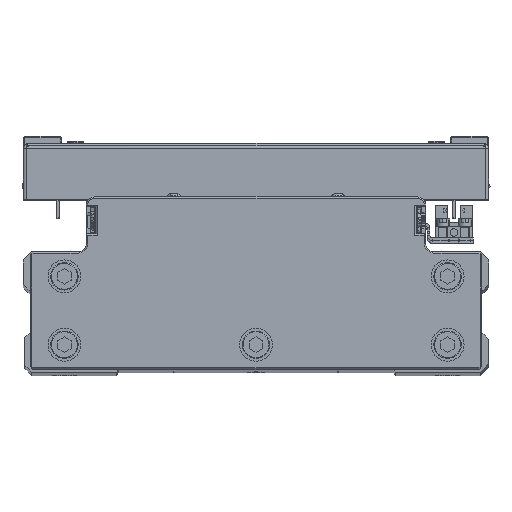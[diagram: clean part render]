
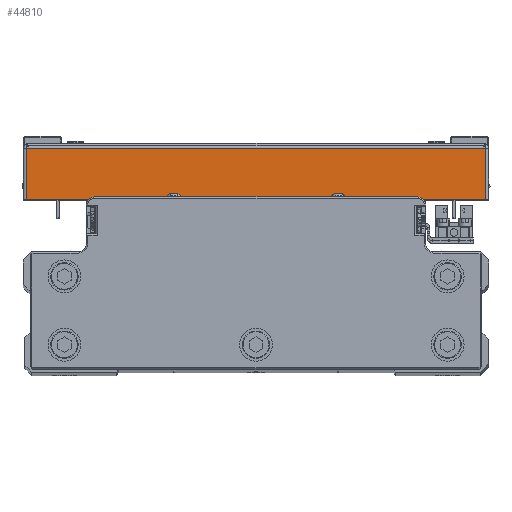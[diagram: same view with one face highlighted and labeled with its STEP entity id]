
A CAD part, top view. The second image highlights one B-rep face of the part: STEP entity #44810.
In plain terms, the highlighted planar face has unit normal (0, 0, 1) as drawn and (1, 0, 0) by its records, which use the part's own axes.
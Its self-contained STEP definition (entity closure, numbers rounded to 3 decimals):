
#1957 = CARTESIAN_POINT ( 'NONE',  ( 110., 19.5, -83.929 ) ) ;
#3543 = LINE ( 'NONE', #17402, #37561 ) ;
#6700 = CARTESIAN_POINT ( 'NONE',  ( 110., 0., 0. ) ) ;
#7973 = DIRECTION ( 'NONE',  ( 0., 0., 1. ) ) ;
#8188 = ORIENTED_EDGE ( 'NONE', *, *, #31437, .F. ) ;
#8842 = CARTESIAN_POINT ( 'NONE',  ( 110., 1., -83.929 ) ) ;
#8875 = DIRECTION ( 'NONE',  ( 0., 1., 0. ) ) ;
#13598 = VECTOR ( 'NONE', #8875, 1000. ) ;
#15167 = LINE ( 'NONE', #28981, #27736 ) ;
#17402 = CARTESIAN_POINT ( 'NONE',  ( 110., 19.5, 0. ) ) ;
#20532 = DIRECTION ( 'NONE',  ( -1., 0., 0. ) ) ;
#21279 = AXIS2_PLACEMENT_3D ( 'NONE', #6700, #20532, #34397 ) ;
#22075 = VERTEX_POINT ( 'NONE', #37813 ) ;
#23328 = EDGE_CURVE ( 'NONE', #43079, #24393, #3543, .T. ) ;
#23952 = FACE_OUTER_BOUND ( 'NONE', #44421, .T. ) ;
#24393 = VERTEX_POINT ( 'NONE', #35215 ) ;
#25198 = LINE ( 'NONE', #39055, #27800 ) ;
#26112 = LINE ( 'NONE', #39963, #13598 ) ;
#26302 = EDGE_CURVE ( 'NONE', #22075, #24393, #26112, .T. ) ;
#27736 = VECTOR ( 'NONE', #42850, 1000. ) ;
#27800 = VECTOR ( 'NONE', #7973, 1000. ) ;
#28981 = CARTESIAN_POINT ( 'NONE',  ( 110., 0., -83.929 ) ) ;
#30196 = ORIENTED_EDGE ( 'NONE', *, *, #23328, .T. ) ;
#30561 = EDGE_CURVE ( 'NONE', #31531, #43079, #15167, .T. ) ;
#31231 = DIRECTION ( 'NONE',  ( 0., 0., 1. ) ) ;
#31437 = EDGE_CURVE ( 'NONE', #31531, #22075, #25198, .T. ) ;
#31531 = VERTEX_POINT ( 'NONE', #8842 ) ;
#31934 = ORIENTED_EDGE ( 'NONE', *, *, #26302, .F. ) ;
#34397 = DIRECTION ( 'NONE',  ( 0., -1., 0. ) ) ;
#35215 = CARTESIAN_POINT ( 'NONE',  ( 110., 19.5, 83.929 ) ) ;
#36467 = ORIENTED_EDGE ( 'NONE', *, *, #30561, .T. ) ;
#37561 = VECTOR ( 'NONE', #31231, 1000. ) ;
#37803 = PLANE ( 'NONE',  #21279 ) ;
#37813 = CARTESIAN_POINT ( 'NONE',  ( 110., 1., 83.929 ) ) ;
#39055 = CARTESIAN_POINT ( 'NONE',  ( 110., 1., 85. ) ) ;
#39963 = CARTESIAN_POINT ( 'NONE',  ( 110., 0., 83.929 ) ) ;
#42850 = DIRECTION ( 'NONE',  ( 0., 1., 0. ) ) ;
#43079 = VERTEX_POINT ( 'NONE', #1957 ) ;
#44421 = EDGE_LOOP ( 'NONE', ( #8188, #36467, #30196, #31934 ) ) ;
#44810 = ADVANCED_FACE ( 'NONE', ( #23952 ), #37803, .F. ) ;
